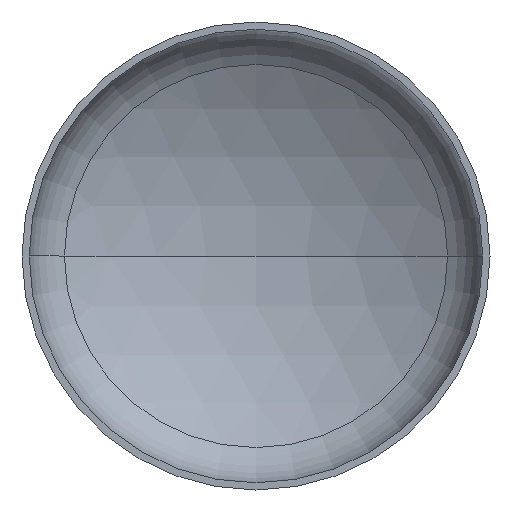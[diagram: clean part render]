
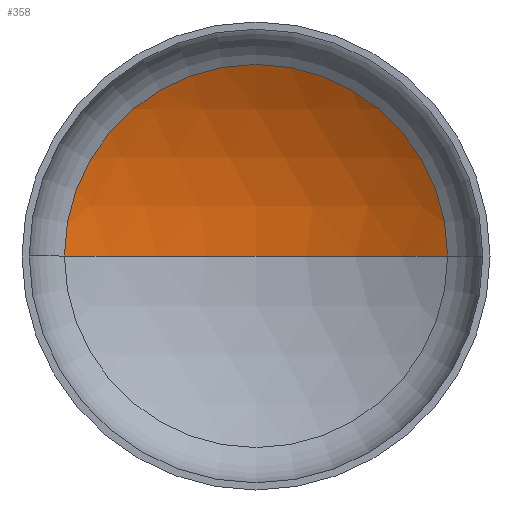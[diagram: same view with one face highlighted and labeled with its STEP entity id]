
A CAD part, front view. The second image highlights one B-rep face of the part: STEP entity #358.
In plain terms, the highlighted spherical face has radius 1920 mm.
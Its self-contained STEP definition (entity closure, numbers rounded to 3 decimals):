
#8 = EDGE_LOOP ( 'NONE', ( #22, #12, #129 ) ) ;
#12 = ORIENTED_EDGE ( 'NONE', *, *, #229, .T. ) ;
#22 = ORIENTED_EDGE ( 'NONE', *, *, #378, .F. ) ;
#28 = AXIS2_PLACEMENT_3D ( 'NONE', #228, #51, #87 ) ;
#39 = AXIS2_PLACEMENT_3D ( 'NONE', #120, #80, #300 ) ;
#43 = VERTEX_POINT ( 'NONE', #250 ) ;
#51 = DIRECTION ( 'NONE',  ( 0., 0., 1. ) ) ;
#80 = DIRECTION ( 'NONE',  ( 0., 0., -1. ) ) ;
#87 = DIRECTION ( 'NONE',  ( 1., 0., 0. ) ) ;
#111 = AXIS2_PLACEMENT_3D ( 'NONE', #240, #239, #237 ) ;
#115 = VERTEX_POINT ( 'NONE', #336 ) ;
#120 = CARTESIAN_POINT ( 'NONE',  ( 0., -1211.785, 0. ) ) ;
#129 = ORIENTED_EDGE ( 'NONE', *, *, #226, .T. ) ;
#134 = AXIS2_PLACEMENT_3D ( 'NONE', #256, #254, #286 ) ;
#154 = CIRCLE ( 'NONE', #134, 982.297 ) ;
#207 = SPHERICAL_SURFACE ( 'NONE', #39, 1920. ) ;
#226 = EDGE_CURVE ( 'NONE', #43, #331, #154, .T. ) ;
#228 = CARTESIAN_POINT ( 'NONE',  ( 0., -1211.785, 0. ) ) ;
#229 = EDGE_CURVE ( 'NONE', #115, #43, #405, .T. ) ;
#237 = DIRECTION ( 'NONE',  ( -1., 0., 0. ) ) ;
#239 = DIRECTION ( 'NONE',  ( 0., 0., -1. ) ) ;
#240 = CARTESIAN_POINT ( 'NONE',  ( 0., -1211.785, 0. ) ) ;
#250 = CARTESIAN_POINT ( 'NONE',  ( 982.297, 437.91, 0. ) ) ;
#254 = DIRECTION ( 'NONE',  ( 0., -1., 0. ) ) ;
#256 = CARTESIAN_POINT ( 'NONE',  ( 0., 437.91, 0. ) ) ;
#286 = DIRECTION ( 'NONE',  ( 1., 0., 0. ) ) ;
#300 = DIRECTION ( 'NONE',  ( -1., 0., 0. ) ) ;
#331 = VERTEX_POINT ( 'NONE', #398 ) ;
#336 = CARTESIAN_POINT ( 'NONE',  ( 0., 708.215, 0. ) ) ;
#358 = ADVANCED_FACE ( 'NONE', ( #393 ), #207, .F. ) ;
#378 = EDGE_CURVE ( 'NONE', #115, #331, #387, .T. ) ;
#387 = CIRCLE ( 'NONE', #28, 1920. ) ;
#393 = FACE_OUTER_BOUND ( 'NONE', #8, .T. ) ;
#398 = CARTESIAN_POINT ( 'NONE',  ( -982.297, 437.91, 0. ) ) ;
#405 = CIRCLE ( 'NONE', #111, 1920. ) ;
